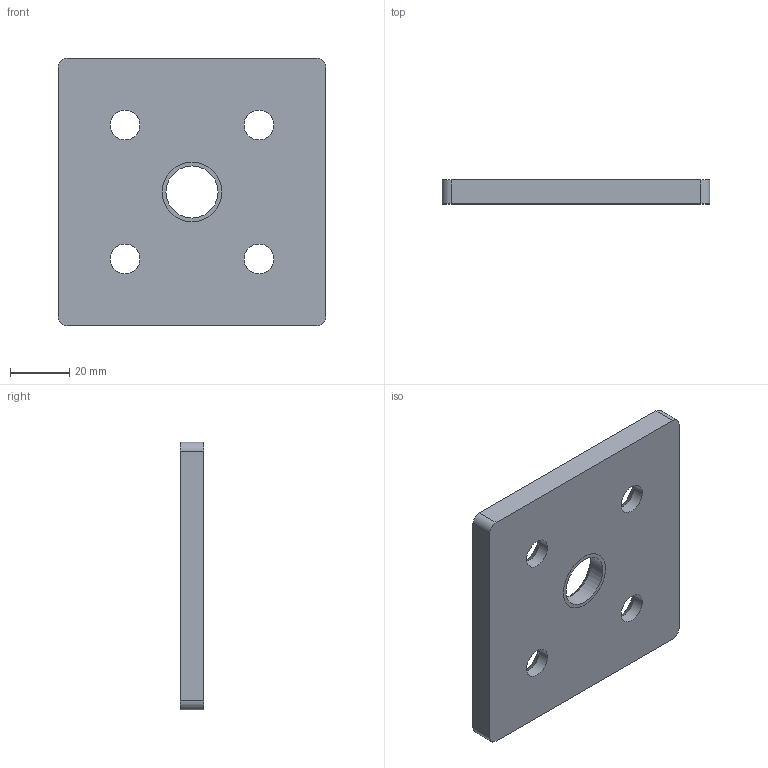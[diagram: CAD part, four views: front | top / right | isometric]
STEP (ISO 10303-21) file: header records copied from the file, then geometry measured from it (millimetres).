
FILE_DESCRIPTION((''),'2;1');
FILE_NAME('TAF909020','2002-12-27T',('Lipro doo'),('Lipro d.o.o.'),'PRO/ENGINEER BY PARAMETRIC TECHNOLOGY CORPORATION, 2001150','PRO/ENGINEER BY PARAMETRIC TECHNOLOGY CORPORATION, 2001150','');
FILE_SCHEMA(('CONFIG_CONTROL_DESIGN'));
Length unit declared in the file: millimetre
Products named in the file (1): TAF909020
Bounding box: 90 x 8 x 90 mm (x, y, z)
Volume: 58884.8 mm3; surface area: 19527.5 mm2
Topology: 1 solids, 2 shells, 32 faces, 80 edges, 50 vertices
Faces by surface type: cylinder 16, cone 10, plane 6
Entity records: 1030 total; most frequent: DIRECTION 188, CARTESIAN_POINT 163, ORIENTED_EDGE 156, EDGE_CURVE 80, AXIS2_PLACEMENT_3D 75, VERTEX_POINT 50, EDGE_LOOP 42, CIRCLE 42
